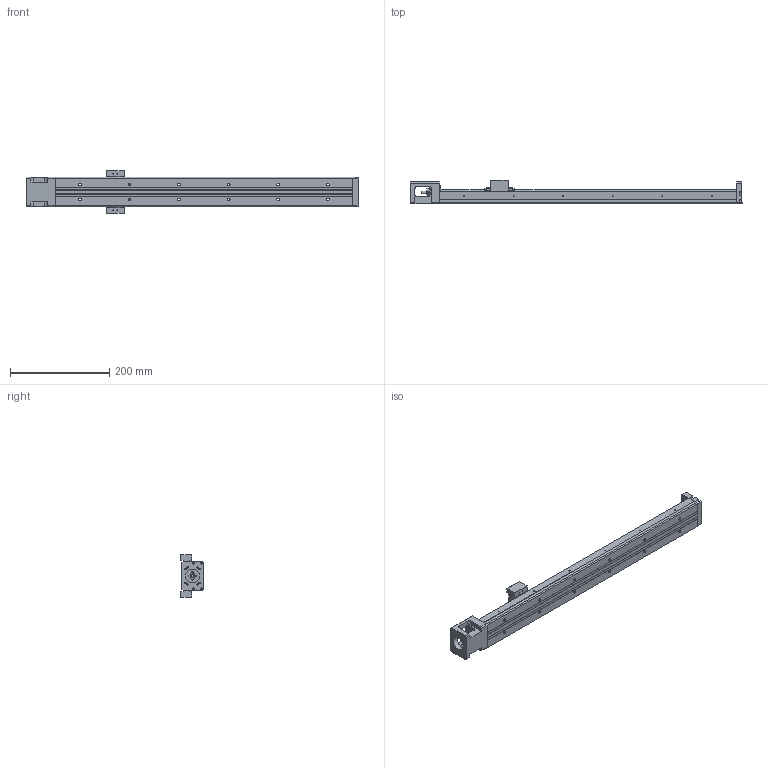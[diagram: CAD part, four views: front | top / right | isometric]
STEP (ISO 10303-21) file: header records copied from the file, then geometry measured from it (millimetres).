
FILE_DESCRIPTION(/* description */ (''),/* implementation_level */ '2;1');
FILE_NAME(/* name */ '33S-600.stp',/* time_stamp */ '2016-12-20T13:48:47+08:00',/* author */ (''),/* organization */ (''),/* preprocessor_version */ 'ST-DEVELOPER v11',/* originating_system */ 'SIEMENS UGS NX 6.0',/* authorisation */ '');
FILE_SCHEMA (('AUTOMOTIVE_DESIGN { 1 0 10303 214 1 1 1 1 }'));
Length unit declared in the file: millimetre
Products named in the file (1): model4
Bounding box: 670 x 47.95 x 86 mm (x, y, z)
Volume: 724950.3 mm3; surface area: 205016.4 mm2
Topology: 6 solids, 15 shells, 716 faces, 1805 edges, 1191 vertices
Faces by surface type: plane 420, cylinder 211, bspline 31, cone 22, extrusion 21, torus 9, revolution 2
Full cylindrical faces by diameter (mm): 1.6 x4, 1.65 x4, 2.15 x10, 2.42 x4, 2.45 x4, 2.5 x20, 3.2 x4, 3.3 x4, 3.4 x4, 3.5 x10, 3.969 x1, 4 x4, 4.001 x1, 4.135 x2, 4.2 x2, 5.5 x12, 6 x5, 7.6 x1, 8 x5, 9.5 x12, 10.72 x3, 11.8 x2, 12 x6, 12.8 x1, 13 x2, 14 x1, 17.38 x3, 21.5 x1, 22 x2, 28 x1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
Entity records: 36432 total; most frequent: CARTESIAN_POINT 16586, DIRECTION 3238, ORIENTED_EDGE 3114, EDGE_CURVE 1557, AXIS2_PLACEMENT_3D 1157, VERTEX_POINT 1111, EDGE_LOOP 1026, VECTOR 922
